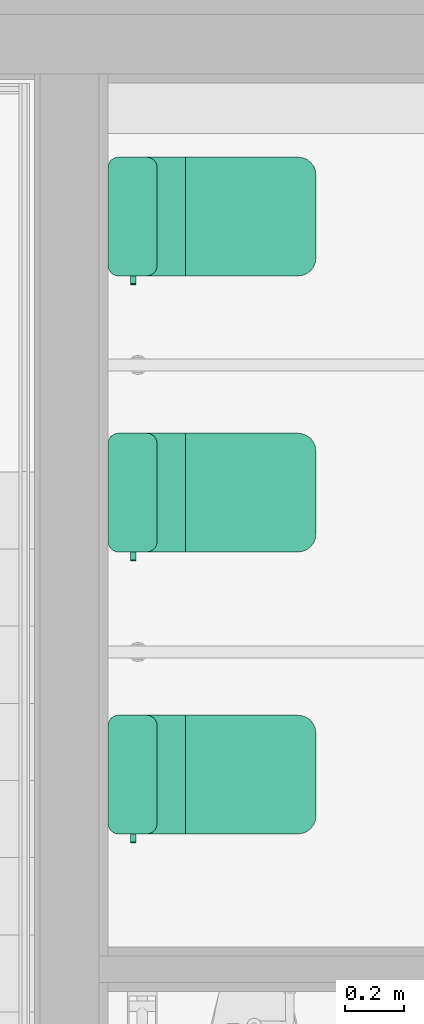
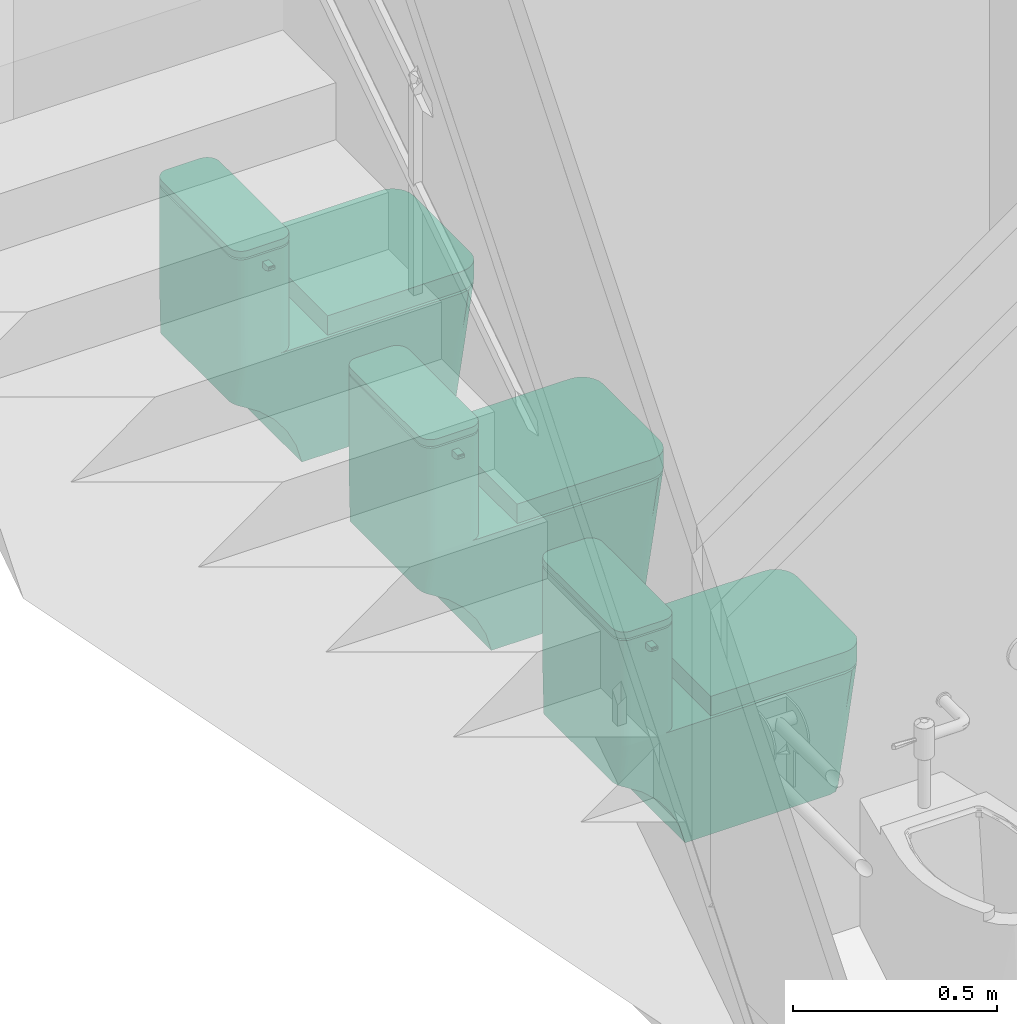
# One storey, part 69 of 76: 3 flow terminals.
"""IFC2X3 building model written with IfcOpenShell, lengths in millimetres."""

import ifcopenshell
import ifcopenshell.guid

model = None  # the IFC model being written
_history = None  # IfcOwnerHistory: only IFC2X3 demands one
_inside = {}  # id of a spatial element -> (the spatial element, [elements in it])
_under = {}  # id of a project, library or spatial element -> (it, [spatial elements below it])
_declared = {}  # id of a project -> (the project, [libraries it declares])
_typed = {}  # id of a type object -> (the type object, [elements of that type])
_made_of = {}  # id of a material, layer set ... -> (it, [elements and type objects made of it])


def new_model(schema):
    """Start an empty IFC model of exactly this schema.

    Asked for "IFC4X3", IfcOpenShell would pick the latest addendum, in which some entities
    have other attributes; the version numbers below select the first issue.
    IFC2X3 requires an IfcOwnerHistory on every rooted entity: one is made here for all.
    """
    global model, _history
    if schema == "IFC4X3":
        model = ifcopenshell.file(schema_version=(4, 3, 0, 0))
    else:
        model = ifcopenshell.file(schema=schema)
    _inside.clear()
    _under.clear()
    _declared.clear()
    _typed.clear()
    _made_of.clear()
    _history = None
    if model.schema == "IFC2X3":
        org = make("IfcOrganization", Name="unknown")
        user = make(
            "IfcPersonAndOrganization",
            ThePerson=make("IfcPerson", FamilyName="unknown"),
            TheOrganization=org,
        )
        app = make(
            "IfcApplication",
            ApplicationDeveloper=org,
            Version="unknown",
            ApplicationFullName="unknown",
            ApplicationIdentifier="unknown",
        )
        _history = make(
            "IfcOwnerHistory",
            OwningUser=user,
            OwningApplication=app,
            ChangeAction="ADDED",
            CreationDate=0,
        )
    return model


def make(cls, **values):
    """One entity of the class cls with the attributes given. An attribute that is None is left unset."""
    return model.create_entity(
        cls, **{name: value for name, value in values.items() if value is not None}
    )


def entity(cls, *values):
    """Any entity or typed value of the class cls, its attributes in the order of the schema. None: left unset."""
    e = model.create_entity(cls)
    for i, value in enumerate(values):
        if value is not None:
            e[i] = value
    return e


def rooted(cls, **values):
    """An entity with a GlobalId (a new one), such as an element, a storey or a relation."""
    return make(cls, GlobalId=ifcopenshell.guid.new(), OwnerHistory=_history, **values)


def si_unit(unit_type, name, prefix=None):
    """IfcSIUnit, for example si_unit("LENGTHUNIT", "METRE", prefix="MILLI")."""
    return make("IfcSIUnit", UnitType=unit_type, Prefix=prefix, Name=name)


def converted_unit(unit_type, name, factor, base, dimensions=None, offset=None):
    """IfcConversionBasedUnit, such as the inch: factor (a typed value) times the base unit."""
    return make(
        "IfcConversionBasedUnit"
        if offset is None
        else "IfcConversionBasedUnitWithOffset",
        ConversionOffset=offset,
        Dimensions=None
        if dimensions is None
        else entity("IfcDimensionalExponents", *dimensions),
        UnitType=unit_type,
        Name=name,
        ConversionFactor=make(
            "IfcMeasureWithUnit", ValueComponent=factor, UnitComponent=base
        ),
    )


def derived_unit(unit_type, elements):
    """IfcDerivedUnit: a product of units, each with its exponent."""
    return make(
        "IfcDerivedUnit",
        Elements=[
            make("IfcDerivedUnitElement", Unit=unit, Exponent=power)
            for unit, power in elements
        ],
        UnitType=unit_type,
    )


def assignment(units):
    """IfcUnitAssignment: the units of a project."""
    return None if units is None else make("IfcUnitAssignment", Units=units)


def point(xyz):
    """IfcCartesianPoint."""
    return None if xyz is None else make("IfcCartesianPoint", Coordinates=xyz)


def direction(xyz):
    """IfcDirection."""
    return None if xyz is None else make("IfcDirection", DirectionRatios=xyz)


def frame(location, z_axis=None, x_axis=None):
    """IfcAxis2Placement3D, a coordinate frame: its origin and axes. An axis left out is left unset."""
    return make(
        "IfcAxis2Placement3D",
        Location=point(location),
        Axis=direction(z_axis),
        RefDirection=direction(x_axis),
    )


def origin():
    """The frame at (0, 0, 0) with its axes left unset."""
    return frame((0.0, 0.0, 0.0))


def place(relative_to, where):
    """IfcLocalPlacement: puts the frame where relative to a parent placement (None: the world)."""
    return make(
        "IfcLocalPlacement", PlacementRelTo=relative_to, RelativePlacement=where
    )


def context(
    kind, dimensions, precision=None, world=None, true_north=None, identifier=None
):
    """IfcGeometricRepresentationContext, for example the 3D "Model" context."""
    return make(
        "IfcGeometricRepresentationContext",
        ContextIdentifier=identifier,
        ContextType=kind,
        CoordinateSpaceDimension=dimensions,
        Precision=precision,
        WorldCoordinateSystem=world,
        TrueNorth=true_north,
    )


def subcontext(parent, identifier, kind, view, scale=None):
    """IfcGeometricRepresentationSubContext, for example "Body" below "Model"."""
    return make(
        "IfcGeometricRepresentationSubContext",
        ContextIdentifier=identifier,
        ContextType=kind,
        ParentContext=parent,
        TargetScale=scale,
        TargetView=view,
    )


def project(units=None, contexts=None):
    """IfcProject with its units and contexts."""
    return rooted(
        "IfcProject",
        Name="project",
        RepresentationContexts=contexts,
        UnitsInContext=assignment(units),
    )


def spatial(cls, under=None, at=None, **own):
    """A site, building, storey or space (cls), placed at a placement, below another one or the project."""
    s = rooted(cls, ObjectPlacement=at, **own)
    if under is not None:
        _under.setdefault(under.id(), (under, []))[1].append(s)
    return s


def faces_of(points, faces, orient=None, outer=None):
    """IfcFace entities. A face is a list of loops; a loop is a list of indices into points, from 0.

    orient and outer hold one flag for each loop. By default every Orientation is true, the
    first loop of a face is its IfcFaceOuterBound and the others are IfcFaceBound.
    """
    made = []
    for i, loops in enumerate(faces):
        bounds = []
        for j, loop in enumerate(loops):
            is_outer = j == 0 if outer is None else outer[i][j]
            bounds.append(
                make(
                    "IfcFaceOuterBound" if is_outer else "IfcFaceBound",
                    Bound=make("IfcPolyLoop", Polygon=[points[k] for k in loop]),
                    Orientation=True if orient is None else orient[i][j],
                )
            )
        made.append(make("IfcFace", Bounds=bounds))
    return made


def faceted_brep(points, faces, orient=None, outer=None, voids=None):
    """IfcFacetedBrep: a solid bounded by flat faces; with voids (closed shells), ...WithVoids."""
    shared = [point(p) for p in points]
    hull = make("IfcClosedShell", CfsFaces=faces_of(shared, faces, orient, outer))
    if voids is None:
        return make("IfcFacetedBrep", Outer=hull)
    return make(
        "IfcFacetedBrepWithVoids",
        Outer=hull,
        Voids=[
            make(cls, CfsFaces=faces_of(shared, fs, o, b)) for cls, fs, o, b in voids
        ],
    )


def shape(context_of_items, identifier, shape_type, items):
    """IfcShapeRepresentation: the items that make up one representation, for example the "Body"."""
    return make(
        "IfcShapeRepresentation",
        ContextOfItems=context_of_items,
        RepresentationIdentifier=identifier,
        RepresentationType=shape_type,
        Items=items,
    )


def source(mapping_origin, context_of_items, identifier, shape_type, items):
    """IfcRepresentationMap: a shape defined once, which mapped items show again and again."""
    return make(
        "IfcRepresentationMap",
        MappingOrigin=mapping_origin,
        MappedRepresentation=shape(context_of_items, identifier, shape_type, items),
    )


def transform(
    local_origin,
    x_axis=None,
    y_axis=None,
    z_axis=None,
    scale=None,
    scale2=None,
    scale3=None,
    uniform=True,
):
    """IfcCartesianTransformationOperator3D, or its non-uniform kind. x_axis, y_axis, z_axis: its Axis1, 2, 3."""
    if uniform:
        return make(
            "IfcCartesianTransformationOperator3D",
            Axis1=direction(x_axis),
            Axis2=direction(y_axis),
            LocalOrigin=point(local_origin),
            Scale=scale,
            Axis3=direction(z_axis),
        )
    return make(
        "IfcCartesianTransformationOperator3DnonUniform",
        Axis1=direction(x_axis),
        Axis2=direction(y_axis),
        LocalOrigin=point(local_origin),
        Scale=scale,
        Axis3=direction(z_axis),
        Scale2=scale2,
        Scale3=scale3,
    )


def mapped(mapping_source, mapping_target):
    """IfcMappedItem: shows the shape of a source again, moved by a transform."""
    return make(
        "IfcMappedItem", MappingSource=mapping_source, MappingTarget=mapping_target
    )


def material(Name=None, Category=None):
    """IfcMaterial."""
    return make("IfcMaterial", Name=Name, Category=Category)


def material_list(materials):
    """IfcMaterialList."""
    return make("IfcMaterialList", Materials=materials)


def made_of(thing, what):
    """Note that an element or type object is made of a material, layer set ...; save() writes the relation."""
    if what is not None:
        _made_of.setdefault(what.id(), (what, []))[1].append(thing)
    return thing


def type_object(cls, material=None, **own):
    """A type object (cls), such as IfcWallType, which elements share."""
    return made_of(rooted(cls, **own), material)


def type_shapes(of_type, sources):
    """Give a type object the sources (RepresentationMaps) that its elements show as mapped items."""
    of_type.RepresentationMaps = sources


def element(
    cls,
    number,
    at=None,
    inside=None,
    cuts=None,
    type_object=None,
    material=None,
    context=None,
    identifier="Body",
    shape_type=None,
    held_by="IfcProductDefinitionShape",
    body=None,
    shapes=None,
    **own,
):
    """One element of the class cls, such as IfcWall. Its Tag is "e" and its number.

    at: its placement. inside: the storey or other place that contains it. cuts: it is an
    opening in that element (IfcRelVoidsElement). A single representation is given by context,
    identifier, shape_type and body (its items); several are given by shapes. held_by: the class
    of the entity that holds the representations. save() writes the other relations.
    """
    e = rooted(cls, Tag="e%d" % number, ObjectPlacement=at, **own)
    if body is not None:
        shapes = [shape(context, identifier, shape_type, body)]
    if shapes is not None:
        e.Representation = make(held_by, Representations=shapes)
    if inside is not None:
        _inside.setdefault(inside.id(), (inside, []))[1].append(e)
    if cuts is not None:
        rooted(
            "IfcRelVoidsElement", RelatingBuildingElement=cuts, RelatedOpeningElement=e
        )
    if type_object is not None:
        _typed.setdefault(type_object.id(), (type_object, []))[1].append(e)
    return made_of(e, material)


def aggregate(whole, parts):
    """IfcRelAggregates: a whole, such as a stair, and the parts it consists of."""
    return rooted("IfcRelAggregates", RelatingObject=whole, RelatedObjects=parts)


def save(model, path):
    """Write the relations noted so far, then the file.

    IfcRelAggregates (storeys below a building ...), IfcRelContainedInSpatialStructure (elements
    in a storey), IfcRelDefinesByType, IfcRelAssociatesMaterial and IfcRelDeclares: one each for
    every whole, place, type object, material and project.
    """
    for whole, parts in _under.values():
        aggregate(whole, parts)
    for where, things in _inside.values():
        rooted(
            "IfcRelContainedInSpatialStructure",
            RelatedElements=things,
            RelatingStructure=where,
        )
    for kind, things in _typed.values():
        rooted("IfcRelDefinesByType", RelatedObjects=things, RelatingType=kind)
    for what, things in _made_of.values():
        rooted("IfcRelAssociatesMaterial", RelatedObjects=things, RelatingMaterial=what)
    for by, libraries in _declared.values():
        rooted("IfcRelDeclares", RelatingContext=by, RelatedDefinitions=libraries)
    model.write(path)


model = new_model("IFC2X3")

# Units and contexts
model_context = context("Model", 3, precision=0.01, world=origin(), true_north=direction((6.123031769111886e-17, 1.0)))
body_context = subcontext(model_context, "Body", "Model", "MODEL_VIEW")
ifc_project = project(units=[si_unit("LENGTHUNIT", "METRE", prefix="MILLI"), si_unit("AREAUNIT", "SQUARE_METRE"), si_unit("VOLUMEUNIT", "CUBIC_METRE"), converted_unit("PLANEANGLEUNIT", "DEGREE", entity("IfcRatioMeasure", 0.017453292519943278), si_unit("PLANEANGLEUNIT", "RADIAN"), dimensions=[0, 0, 0, 0, 0, 0, 0]), si_unit("MASSUNIT", "GRAM", prefix="KILO"), derived_unit("MASSDENSITYUNIT", [(si_unit("MASSUNIT", "GRAM", prefix="KILO"), 1), (si_unit("LENGTHUNIT", "METRE"), -3)]), derived_unit("MOMENTOFINERTIAUNIT", [(si_unit("LENGTHUNIT", "METRE"), 4)]), si_unit("TIMEUNIT", "SECOND"), si_unit("FREQUENCYUNIT", "HERTZ"), si_unit("THERMODYNAMICTEMPERATUREUNIT", "DEGREE_CELSIUS"), derived_unit("THERMALTRANSMITTANCEUNIT", [(si_unit("MASSUNIT", "GRAM", prefix="KILO"), 1), (si_unit("THERMODYNAMICTEMPERATUREUNIT", "KELVIN"), -1), (si_unit("TIMEUNIT", "SECOND"), -3)]), derived_unit("VOLUMETRICFLOWRATEUNIT", [(si_unit("LENGTHUNIT", "METRE"), 3), (si_unit("TIMEUNIT", "SECOND"), -1)]), derived_unit("MASSFLOWRATEUNIT", [(si_unit("MASSUNIT", "GRAM", prefix="KILO"), 1), (si_unit("TIMEUNIT", "SECOND"), -1)]), derived_unit("ROTATIONALFREQUENCYUNIT", [(si_unit("TIMEUNIT", "SECOND"), -1)]), si_unit("ELECTRICCURRENTUNIT", "AMPERE"), si_unit("ELECTRICVOLTAGEUNIT", "VOLT"), si_unit("POWERUNIT", "WATT"), si_unit("FORCEUNIT", "NEWTON", prefix="KILO"), si_unit("ILLUMINANCEUNIT", "LUX"), si_unit("LUMINOUSFLUXUNIT", "LUMEN"), si_unit("LUMINOUSINTENSITYUNIT", "CANDELA"), derived_unit("USERDEFINED", [(si_unit("MASSUNIT", "GRAM", prefix="KILO"), -1), (si_unit("LENGTHUNIT", "METRE"), -2), (si_unit("TIMEUNIT", "SECOND"), 3), (si_unit("LUMINOUSFLUXUNIT", "LUMEN"), 1)]), derived_unit("SOUNDPOWERUNIT", [(si_unit("MASSUNIT", "GRAM", prefix="KILO"), 1), (si_unit("LENGTHUNIT", "METRE"), 2), (si_unit("TIMEUNIT", "SECOND"), -3)]), derived_unit("SOUNDPRESSUREUNIT", [(si_unit("MASSUNIT", "GRAM", prefix="KILO"), 1), (si_unit("LENGTHUNIT", "METRE"), -1), (si_unit("TIMEUNIT", "SECOND"), -2)]), derived_unit("LINEARVELOCITYUNIT", [(si_unit("LENGTHUNIT", "METRE"), 1), (si_unit("TIMEUNIT", "SECOND"), -1)]), si_unit("PRESSUREUNIT", "PASCAL"), derived_unit("USERDEFINED", [(si_unit("LENGTHUNIT", "METRE"), -2), (si_unit("MASSUNIT", "GRAM", prefix="KILO"), 1), (si_unit("TIMEUNIT", "SECOND"), -2)]), derived_unit("LINEARFORCEUNIT", [(si_unit("MASSUNIT", "GRAM", prefix="KILO"), 1), (si_unit("LENGTHUNIT", "METRE"), 1), (si_unit("TIMEUNIT", "SECOND"), -2), (si_unit("LENGTHUNIT", "METRE"), -1)]), derived_unit("PLANARFORCEUNIT", [(si_unit("MASSUNIT", "GRAM", prefix="KILO"), 1), (si_unit("LENGTHUNIT", "METRE"), 1), (si_unit("TIMEUNIT", "SECOND"), -2), (si_unit("LENGTHUNIT", "METRE"), -2)])], contexts=[model_context])

# Site, building, storey, space
site_placement = place(None, frame((-14167.972527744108, -657.2125860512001, 0.0)))
site = spatial("IfcSite", under=ifc_project, at=site_placement, Name="Default", CompositionType="ELEMENT")
building_placement = place(site_placement, origin())
building = spatial("IfcBuilding", under=site, at=building_placement, Name="Sample Building", CompositionType="ELEMENT")
storey_placement = place(building_placement, frame((0.0, 0.0, 9300.0)))
storey = spatial("IfcBuildingStorey", under=building, at=storey_placement, Name="지상 3층", CompositionType="ELEMENT", Elevation=9300.000000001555)
space_placement = place(storey_placement, origin())
space = spatial("IfcSpace", under=storey, at=space_placement, Name="202", CompositionType="ELEMENT", InteriorOrExteriorSpace="INTERNAL")

# Flow terminals
ifc_material_1 = material(Name="KBIMS-스테인리스 스틸_도금")
ifc_material_2 = material(Name="KBIMS-도기")
ifc_material_list_1 = material_list([ifc_material_1, ifc_material_2])
ifc_material_list_2 = material_list([ifc_material_1, ifc_material_2, ifc_material_2])
distribution_element_type = type_object("IfcDistributionElementType", Name="PF127-서양식 탱크일체형:PF127-서양식 탱크일체형", material=ifc_material_list_2)
shared_shape = source(origin(), body_context, "Body", "Brep", [
    faceted_brep([(-200.0, -93.78427766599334, 671.547634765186), (-226.3198216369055, -93.78427766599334, 671.5476347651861), (-228.9221007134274, -93.78427766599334, 670.469735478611), (-230.0, -93.78427766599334, 667.8674564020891), (-230.0, -93.78427766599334, 663.5153317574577), (-229.51628854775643, -93.78427766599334, 661.8557929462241), (-228.21666089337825, -93.78427766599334, 660.71605008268), (-215.9758797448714, -93.78427766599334, 655.0080800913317), (-211.766557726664, -93.78427766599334, 653.5792078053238), (-207.34774888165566, -93.78427766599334, 653.095269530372), (-200.0, -93.78427766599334, 653.095269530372), (-230.0, -75.66503821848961, 663.5153317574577), (-230.0, -75.66503821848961, 667.8674564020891), (-228.9221007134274, -75.66503821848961, 670.469735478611), (-226.31982163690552, -75.66503821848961, 671.5476347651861), (-200.0, -75.66503821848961, 671.547634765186), (-200.0, -75.66503821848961, 653.095269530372), (-207.34774888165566, -75.66503821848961, 653.095269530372), (-211.766557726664, -75.66503821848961, 653.5792078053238), (-215.97587974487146, -75.66503821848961, 655.0080800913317), (-228.21666089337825, -75.66503821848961, 660.71605008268), (-229.51628854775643, -75.66503821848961, 661.8557929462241)], [[[0, 1, 2, 3, 4, 5, 6, 7, 8, 9, 10]], [[11, 12, 13, 14, 15, 16, 17, 18, 19, 20, 21]], [[1, 14, 13, 2]], [[13, 12, 3, 2]], [[4, 3, 12, 11]], [[4, 11, 21, 5]], [[21, 20, 6, 5]], [[7, 6, 20, 19]], [[7, 19, 18, 8]], [[18, 17, 9, 8]], [[10, 9, 17, 16]], [[0, 10, 16, 15]], [[1, 0, 15, 14]]]),
    faceted_brep([(140.0, -700.0, 445.0), (155.52914270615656, -697.9555495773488, 445.0), (170.0, -691.9615242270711, 445.0), (182.42640687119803, -682.4264068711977, 445.0), (191.96152422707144, -670.0, 445.0), (197.9555495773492, -655.5291427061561, 445.0), (200.0, -640.0, 445.0), (200.0, -260.0, 445.0), (-200.0, -260.0, 445.0), (-200.0, -640.0, 445.0), (-197.95554957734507, -655.5291427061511, 445.0), (-191.96152422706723, -670.0, 445.0), (-182.42640687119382, -682.4264068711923, 445.0), (-170.0, -691.9615242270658, 445.0), (-155.52914270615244, -697.9555495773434, 445.0), (-140.0, -700.0, 445.0), (-200.0, -640.0, 386.96747142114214), (-200.0, -260.0, 386.96747142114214), (200.0, -260.0, 386.96747142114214), (200.0, -640.0, 386.96747142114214), (197.9555495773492, -655.5291427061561, 386.96747142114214), (191.96152422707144, -670.0, 386.96747142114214), (182.42640687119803, -682.4264068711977, 386.96747142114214), (170.0, -691.9615242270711, 386.96747142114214), (155.52914270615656, -697.9555495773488, 386.96747142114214), (140.0, -700.0, 386.96747142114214), (-140.0, -700.0, 386.96747142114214), (-155.52914270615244, -697.9555495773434, 386.96747142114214), (-170.0, -691.9615242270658, 386.96747142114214), (-182.42640687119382, -682.4264068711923, 386.96747142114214), (-191.96152422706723, -670.0, 386.96747142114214), (-197.95554957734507, -655.5291427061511, 386.96747142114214)], [[[0, 1, 2, 3, 4, 5, 6, 7, 8, 9, 10, 11, 12, 13, 14, 15]], [[16, 17, 18, 19, 20, 21, 22, 23, 24, 25, 26, 27, 28, 29, 30, 31]], [[1, 24, 23, 2]], [[2, 23, 22, 3]], [[25, 24, 1, 0]], [[4, 21, 20, 5]], [[5, 20, 19, 6]], [[3, 22, 21, 4]], [[7, 6, 19, 18]], [[8, 7, 18, 17]], [[9, 8, 17, 16]], [[10, 31, 30, 11]], [[11, 30, 29, 12]], [[9, 16, 31, 10]], [[13, 28, 27, 14]], [[14, 27, 26, 15]], [[12, 29, 28, 13]], [[0, 15, 26, 25]]]),
    faceted_brep([(165.0, 0.0, 694.4321747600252), (165.0, 0.0, 380.0), (164.13685378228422, 0.0, 314.40088745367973), (163.42105263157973, 0.0, 260.0), (-163.42105263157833, 0.0, 260.0), (-164.1368541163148, 0.0, 314.40091283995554), (-165.0, 0.0, 380.0), (-165.0, 0.0, 694.4321747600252), (-165.0, 0.0, 720.0), (165.0, 0.0, 720.0), (165.0, 0.0, 699.4321747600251), (-165.0, 0.0, 699.4321747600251), (200.0, -35.0, 694.4321747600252), (200.0, -130.0, 694.4321747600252), (200.0, -130.0, 380.0), (200.0, -35.0, 380.0), (200.0, -35.0, 720.0), (200.0, -130.0, 720.0), (200.0, -130.0, 699.4321747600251), (200.0, -35.0, 699.4321747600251), (-198.80740392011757, -139.05866657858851, 694.4321747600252), (-198.80740392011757, -139.0586665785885, 380.0), (-195.31088913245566, -147.5000000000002, 380.0), (-195.31088913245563, -147.50000000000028, 694.4321747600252), (-198.80740392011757, -139.05866657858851, 699.4321747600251), (-195.31088913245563, -147.50000000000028, 699.4321747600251), (-195.3108891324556, -147.50000000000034, 720.0), (-198.80740392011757, -139.05866657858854, 720.0), (-189.74873734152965, -154.74873734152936, 380.0), (-189.74873734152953, -154.74873734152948, 694.4321747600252), (-189.74873734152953, -154.74873734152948, 699.4321747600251), (-189.74873734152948, -154.74873734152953, 720.0), (-200.0, -130.0, 380.0), (-200.0, -130.0, 694.4321747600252), (-200.0, -130.0, 699.4321747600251), (-200.0, -130.0, 720.0), (-182.5000000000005, -160.31088913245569, 694.4321747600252), (-182.50000000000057, -160.31088913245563, 380.0), (-174.05866657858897, -163.80740392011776, 380.0), (-174.05866657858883, -163.8074039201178, 694.4321747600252), (-174.05866657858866, -163.80740392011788, 720.0), (-182.50000000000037, -160.31088913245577, 720.0), (-182.5000000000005, -160.31088913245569, 699.4321747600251), (-174.05866657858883, -163.8074039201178, 699.4321747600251), (-165.0, -165.0, 380.0), (-165.0, -165.0, 694.4321747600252), (-165.0, -165.0, 720.0), (-165.0, -165.0, 699.4321747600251), (165.0, -165.0, 694.4321747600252), (165.0, -165.0, 380.0), (165.0, -165.0, 720.0), (165.0, -165.0, 699.4321747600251), (-200.0, -35.0, 694.4321747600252), (-200.0, -35.0, 380.0), (-200.0, -35.0, 720.0), (-200.0, -35.0, 699.4321747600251), (198.80740392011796, -25.941333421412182, 699.4321747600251), (195.310889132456, -17.500000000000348, 699.4321747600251), (195.31088913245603, -17.500000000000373, 720.0), (198.80740392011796, -25.94133342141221, 720.0), (189.74873734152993, -10.251262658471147, 720.0), (189.74873734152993, -10.251262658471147, 699.4321747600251), (174.05866657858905, -1.1925960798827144, 699.4321747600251), (174.0586665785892, -1.192596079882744, 720.0), (182.50000000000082, -4.68911086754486, 699.4321747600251), (182.50000000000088, -4.68911086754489, 720.0), (174.05866657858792, -163.80740392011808, 694.4321747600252), (174.05866657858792, -163.80740392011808, 380.0), (182.49999999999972, -160.31088913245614, 380.0), (182.49999999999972, -160.31088913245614, 694.4321747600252), (174.05866657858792, -163.80740392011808, 699.4321747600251), (182.49999999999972, -160.31088913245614, 699.4321747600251), (182.5000000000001, -160.31088913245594, 720.0), (174.0586665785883, -163.80740392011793, 720.0), (189.74873734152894, -154.74873734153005, 380.0), (189.74873734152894, -154.74873734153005, 694.4321747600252), (189.74873734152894, -154.74873734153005, 699.4321747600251), (189.74873734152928, -154.74873734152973, 720.0), (195.31088913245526, -147.50000000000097, 694.4321747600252), (195.31088913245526, -147.50000000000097, 380.0), (198.8074039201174, -139.05866657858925, 380.0), (198.8074039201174, -139.05866657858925, 694.4321747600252), (195.31088913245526, -147.50000000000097, 699.4321747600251), (198.8074039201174, -139.05866657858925, 699.4321747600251), (198.80740392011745, -139.0586665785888, 720.0), (195.3108891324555, -147.50000000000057, 720.0), (-174.0586665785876, -1.1925960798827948, 720.0), (-174.0586665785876, -1.1925960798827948, 699.4321747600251), (-182.49999999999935, -4.689110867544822, 720.0), (-182.49999999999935, -4.689110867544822, 699.4321747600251), (-189.7487373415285, -10.251262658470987, 720.0), (-189.7487373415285, -10.251262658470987, 699.4321747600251), (-198.8074039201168, -25.941333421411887, 720.0), (-195.31088913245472, -17.50000000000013, 720.0), (-195.31088913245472, -17.50000000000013, 699.4321747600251), (-198.8074039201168, -25.941333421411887, 699.4321747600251), (-174.0586665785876, -1.192596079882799, 694.4321747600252), (-171.07672145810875, -0.5315585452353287, 380.0), (-176.96898132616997, -2.1101309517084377, 380.0), (-182.49999999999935, -4.689110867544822, 694.4321747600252), (-182.49783433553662, -4.687860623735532, 380.0), (-187.49533036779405, -8.18656844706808, 380.0), (-189.7487373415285, -10.251262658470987, 694.4321747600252), (-195.31088913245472, -17.50000000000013, 694.4321747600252), (-195.3094689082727, -17.4975403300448, 380.0), (-197.88846700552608, -23.02716666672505, 380.0), (-198.8074039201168, -25.941333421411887, 694.4321747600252), (-199.4680424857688, -28.921015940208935, 380.0), (-191.8095995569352, -12.500102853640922, 380.0), (198.80740392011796, -25.941333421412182, 694.4321747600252), (199.46810048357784, -28.92134479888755, 380.0), (197.88863680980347, -23.02763311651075, 380.0), (195.310889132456, -17.500000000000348, 694.4321747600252), (195.3097905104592, -17.498097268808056, 380.0), (191.81007551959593, -12.500669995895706, 380.0), (189.74873734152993, -10.251262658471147, 694.4321747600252), (182.50000000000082, -4.68911086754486, 694.4321747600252), (182.49858765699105, -4.6882954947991, 380.0), (176.9698186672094, -2.110435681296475, 380.0), (171.0775985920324, -0.5317131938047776, 380.0), (174.05866657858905, -1.1925960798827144, 694.4321747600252), (187.49595914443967, -8.187095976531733, 380.0), (160.0, -210.0, 0.0), (160.0, -620.0, 0.0), (156.6733983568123, -632.4150463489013, 0.0), (154.64101615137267, -640.0, 0.0), (147.3205080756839, -647.3205080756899, 0.0), (140.0, -654.6410161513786, 0.0), (132.41504577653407, -656.673398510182, 0.0), (120.0, -660.0, 0.0), (-120.0, -660.0, 0.0), (-132.4150463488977, -656.6733983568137, 0.0), (-140.0, -654.6410161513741, 0.0), (-147.32050807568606, -647.3205080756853, 0.0), (-154.64101615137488, -640.0, 0.0), (-156.67339851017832, -632.4150457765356, 0.0), (-160.0, -620.0, 0.0), (-160.0, -210.0, 0.0), (-200.0, -640.0, 380.0), (-197.71638597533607, -651.4805029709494, 380.0), (-195.43277195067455, -662.961005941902, 380.0), (-188.92958941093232, -672.6937064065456, 380.0), (-182.42640687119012, -682.4264068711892, 380.0), (-172.69370640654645, -688.9295894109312, 380.0), (-162.96100594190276, -695.4327719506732, 380.0), (-151.48050297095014, -697.7163859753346, 380.0), (-140.0, -700.0, 380.0), (140.0, -700.0, 380.0), (151.4805029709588, -697.7163859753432, 380.0), (162.9610059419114, -695.4327719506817, 380.0), (172.69370640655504, -688.9295894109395, 380.0), (182.42640687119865, -682.4264068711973, 380.0), (188.9295894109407, -672.6937064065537, 380.0), (195.4327719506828, -662.96100594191, 380.0), (197.7163859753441, -651.4805029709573, 380.0), (200.0, -640.0, 380.0), (181.88767422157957, -630.9438371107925, 207.93290510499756), (169.05616288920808, -624.5280814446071, 86.03354744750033), (166.41215116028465, -190.4623972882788, 60.91543602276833), (172.39104658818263, -161.03070825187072, 117.71494258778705), (177.76891724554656, -122.53079215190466, 168.80471383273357), (182.39485897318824, -76.04296457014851, 212.75116024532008), (186.13906689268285, -22.871683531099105, 248.32113548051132), (193.0948286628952, -28.957975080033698, 314.4008722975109), (184.4509041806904, -13.399793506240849, 253.3937042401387), (192.48236559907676, -21.712362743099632, 318.068486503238), (185.85897664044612, -18.078391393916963, 250.93098822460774), (169.4535256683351, -0.47508644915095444, 318.71364296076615), (176.81269594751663, -2.7853559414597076, 322.8232335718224), (184.85554366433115, -8.564241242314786, 317.5126549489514), (188.64536552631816, -13.805323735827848, 311.79954638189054), (181.93237214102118, -9.070973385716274, 255.5993773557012), (168.85282113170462, -0.6257823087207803, 259.7058617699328), (178.3784036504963, -5.339995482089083, 257.4452533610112), (173.94033185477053, -2.453774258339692, 258.83869964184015), (-193.09483031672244, -28.957976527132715, 314.4008880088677), (-192.48224700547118, -21.712007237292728, 318.06820833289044), (-185.85897664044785, -18.07839139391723, 250.93098822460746), (-169.4535400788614, -0.47508841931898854, 318.7138102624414), (-188.64533012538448, -13.805305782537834, 311.79916939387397), (-184.4509041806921, -13.399793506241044, 253.39370424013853), (-184.85525539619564, -8.563839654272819, 317.5148648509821), (-178.37840365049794, -5.3399954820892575, 257.44525336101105), (-181.93237214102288, -9.070973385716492, 255.59937735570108), (-186.13906689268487, -22.87168353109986, 248.32113548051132), (-176.81199260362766, -2.7850356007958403, 322.8227486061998), (-173.9403318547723, -2.4537742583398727, 258.8386996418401), (-168.85282113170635, -0.6257823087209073, 259.70586176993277), (-182.39485897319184, -76.04296457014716, 212.75116024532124), (-177.7689172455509, -122.53079215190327, 168.8047138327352), (-172.3910465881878, -161.03070825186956, 117.71494258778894), (-166.4121511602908, -190.46239728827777, 60.9154360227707), (-170.9438402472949, -625.4719201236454, 103.96648234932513), (-181.88767486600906, -630.9438374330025, 207.932911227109), (167.84723921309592, -644.8835703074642, 113.26853664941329), (182.70359618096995, -650.4613144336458, 244.34084888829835), (172.7916320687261, -658.8131569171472, 202.6373284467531), (163.28959461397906, -663.2895949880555, 167.00838556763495), (161.3612464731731, -651.454814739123, 94.73545488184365), (130.94384024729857, -681.8876804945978, 207.93296469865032), (137.1466297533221, -675.5797921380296, 155.949684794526), (142.81243148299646, -686.5857660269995, 259.99216222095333), (174.39327642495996, -671.2588406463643, 273.5041922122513), (151.45063444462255, -661.3663368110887, 94.74858838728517), (144.3377504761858, -669.7672265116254, 125.97246068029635), (152.4807217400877, -683.0768420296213, 253.0686677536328), (158.81315653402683, -672.7916326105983, 202.63733033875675), (125.47192012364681, -670.9438402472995, 103.96648234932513), (169.1268939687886, -634.5961485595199, 96.37357614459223), (-130.94383711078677, -681.8876742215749, 207.93290510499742), (-124.52808144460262, -669.056162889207, 86.03354744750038), (-144.88357030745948, -667.8472392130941, 113.26853664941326), (-150.46131443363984, -682.7035961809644, 244.34084888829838), (-158.8131569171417, -672.7916320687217, 202.6373284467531), (-163.28959498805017, -663.2895946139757, 167.00838556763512), (-151.4548147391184, -661.3612464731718, 94.73545488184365), (-175.57979213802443, -637.1466297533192, 155.94968479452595), (-186.58576602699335, -642.8124314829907, 259.99216222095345), (-171.25884064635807, -674.3932764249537, 273.50419221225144), (-161.36633681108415, -651.4506344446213, 94.74858838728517), (-169.76722651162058, -644.3377504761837, 125.97246068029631), (-172.79163261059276, -658.8131565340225, 202.63733033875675), (-134.5961485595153, -669.1268939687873, 96.37357614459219), (-183.07684202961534, -652.480721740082, 253.06866775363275), (-185.0, -150.0, 699.4321747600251), (-185.0, -15.0, 699.4321747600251), (-185.0, -15.0, 694.4321747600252), (-185.0, -150.0, 694.4321747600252), (185.0, -150.0, 699.4321747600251), (185.0, -150.0, 694.4321747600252), (185.0, -15.0, 699.4321747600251), (185.0, -15.0, 694.4321747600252)], [[[0, 1, 2, 3, 4, 5, 6, 7]], [[8, 9, 10, 11]], [[12, 13, 14, 15]], [[16, 17, 18, 19]], [[20, 21, 22, 23]], [[24, 25, 26, 27]], [[23, 22, 28, 29]], [[25, 30, 31, 26]], [[32, 21, 20, 33]], [[34, 24, 27, 35]], [[36, 37, 38, 39]], [[40, 41, 42, 43]], [[39, 38, 44, 45]], [[46, 40, 43, 47]], [[29, 28, 37, 36]], [[30, 42, 41, 31]], [[48, 45, 44, 49]], [[50, 46, 47, 51]], [[33, 52, 53, 32]], [[35, 54, 55, 34]], [[56, 57, 58, 59]], [[19, 56, 59, 16]], [[60, 58, 57, 61]], [[62, 10, 9, 63]], [[64, 62, 63, 65]], [[61, 64, 65, 60]], [[66, 67, 68, 69]], [[70, 71, 72, 73]], [[69, 68, 74, 75]], [[71, 76, 77, 72]], [[49, 67, 66, 48]], [[51, 70, 73, 50]], [[78, 79, 80, 81]], [[82, 83, 84, 85]], [[81, 80, 14, 13]], [[83, 18, 17, 84]], [[75, 74, 79, 78]], [[76, 82, 85, 77]], [[86, 8, 11, 87]], [[88, 86, 87, 89]], [[90, 88, 89, 91]], [[92, 93, 94, 95]], [[54, 92, 95, 55]], [[91, 94, 93, 90]], [[9, 8, 86, 88, 90, 93, 92, 54, 35, 27, 26, 31, 41, 40, 46, 50, 73, 72, 77, 85, 84, 17, 16, 59, 58, 60, 65, 63]], [[96, 97, 98]], [[99, 98, 100]], [[99, 100, 101]], [[6, 97, 7]], [[7, 97, 96]], [[98, 99, 96]], [[101, 102, 99]], [[103, 104, 105]], [[106, 105, 107]], [[52, 107, 53]], [[102, 108, 103]], [[108, 102, 101]], [[104, 103, 108]], [[105, 106, 103]], [[107, 52, 106]], [[109, 110, 111]], [[112, 111, 113]], [[112, 113, 114]], [[15, 110, 12]], [[12, 110, 109]], [[111, 112, 109]], [[114, 115, 112]], [[116, 117, 118]], [[118, 119, 120]], [[1, 0, 119]], [[115, 121, 116]], [[121, 115, 114]], [[117, 116, 121]], [[118, 120, 116]], [[119, 0, 120]], [[122, 123, 124, 125, 126, 127, 128, 129, 130, 131, 132, 133, 134, 135, 136, 137]], [[21, 32, 138, 139, 140, 141, 142, 143, 144, 145, 146, 147, 148, 149, 150, 151, 152, 153, 154, 155, 14, 80, 79, 74, 68, 67, 49, 44, 38, 37, 28, 22]], [[14, 155, 156, 157, 123, 122, 158, 159, 160, 161, 162, 163, 15]], [[164, 165, 166]], [[1, 119, 167]], [[118, 117, 168]], [[169, 170, 171]], [[121, 169, 168]], [[117, 121, 168]], [[2, 1, 167, 3]], [[170, 114, 113]], [[172, 167, 168]], [[110, 15, 163]], [[173, 174, 168]], [[171, 173, 169]], [[114, 169, 121]], [[111, 165, 170]], [[111, 110, 165]], [[3, 167, 172]], [[165, 163, 166]], [[168, 169, 173]], [[169, 114, 170]], [[172, 168, 174]], [[171, 170, 164]], [[164, 170, 165]], [[168, 167, 118]], [[166, 163, 162]], [[163, 165, 110]], [[167, 119, 118]], [[170, 113, 111]], [[175, 176, 177]], [[98, 97, 178]], [[176, 105, 179]], [[176, 179, 180]], [[108, 181, 179]], [[182, 183, 181]], [[175, 107, 176]], [[6, 5, 4, 178]], [[184, 175, 177]], [[176, 180, 177]], [[182, 185, 186]], [[179, 183, 180]], [[105, 104, 179]], [[101, 181, 108]], [[185, 100, 98]], [[185, 98, 178]], [[185, 178, 187]], [[97, 6, 178]], [[101, 100, 185]], [[181, 101, 185]], [[107, 105, 176]], [[185, 182, 181]], [[185, 187, 186]], [[175, 53, 107]], [[178, 4, 187]], [[181, 183, 179]], [[179, 104, 108]], [[138, 32, 53, 175, 184, 188, 189, 190, 191, 137, 136, 192, 193]], [[194, 195, 196]], [[197, 126, 198]], [[199, 200, 201]], [[156, 154, 195]], [[202, 152, 151]], [[196, 152, 202]], [[127, 203, 204]], [[194, 198, 125]], [[150, 205, 206]], [[203, 206, 204]], [[124, 194, 125]], [[198, 194, 196]], [[200, 199, 207]], [[123, 157, 156, 208]], [[194, 124, 208]], [[206, 197, 202]], [[194, 208, 195]], [[150, 202, 151]], [[156, 195, 208]], [[123, 208, 124]], [[126, 197, 203]], [[197, 198, 196]], [[126, 125, 198]], [[202, 197, 196]], [[197, 206, 203]], [[127, 204, 128]], [[126, 203, 127]], [[206, 205, 204]], [[202, 150, 206]], [[128, 204, 200]], [[195, 152, 196]], [[148, 205, 149]], [[152, 195, 153]], [[205, 148, 201]], [[128, 200, 207]], [[205, 201, 200]], [[129, 128, 207]], [[205, 200, 204]], [[147, 199, 201]], [[154, 156, 155]], [[154, 153, 195]], [[149, 205, 150]], [[148, 147, 201]], [[146, 209, 210, 130, 129, 207, 199, 147]], [[211, 212, 213]], [[214, 133, 215]], [[193, 216, 217]], [[209, 145, 212]], [[218, 143, 142]], [[213, 143, 218]], [[134, 219, 220]], [[211, 215, 132]], [[142, 141, 218]], [[219, 221, 220]], [[131, 211, 132]], [[215, 211, 213]], [[216, 193, 192]], [[130, 210, 209, 222]], [[211, 131, 222]], [[221, 214, 218]], [[211, 222, 212]], [[218, 141, 221]], [[209, 212, 222]], [[130, 222, 131]], [[133, 214, 219]], [[214, 215, 213]], [[133, 132, 215]], [[218, 214, 213]], [[214, 221, 219]], [[134, 220, 135]], [[133, 219, 134]], [[221, 223, 220]], [[141, 223, 221]], [[135, 220, 216]], [[212, 143, 213]], [[223, 141, 140]], [[143, 212, 144]], [[223, 139, 217]], [[135, 216, 192]], [[223, 217, 216]], [[136, 135, 192]], [[223, 216, 220]], [[138, 193, 217]], [[145, 209, 146]], [[145, 144, 212]], [[139, 223, 140]], [[139, 138, 217]], [[186, 187, 4]], [[182, 186, 4]], [[4, 180, 183]], [[182, 4, 183]], [[4, 3, 162, 184]], [[172, 174, 3]], [[173, 3, 174]], [[171, 3, 173]], [[164, 3, 171]], [[164, 166, 3]], [[162, 3, 166]], [[177, 180, 4]], [[184, 162, 161, 188]], [[190, 189, 160, 159]], [[160, 189, 188, 161]], [[191, 190, 159, 158]], [[191, 158, 122, 137]], [[177, 4, 184]], [[224, 225, 226, 227]], [[228, 224, 227, 229]], [[230, 228, 229, 231]], [[225, 230, 231, 226]], [[78, 81, 229]], [[229, 75, 78]], [[81, 13, 229]], [[231, 229, 13]], [[13, 12, 231]], [[12, 109, 231]], [[231, 109, 112]], [[112, 115, 231]], [[115, 116, 231]], [[120, 231, 116]], [[231, 120, 0]], [[231, 0, 226]], [[226, 0, 7]], [[226, 7, 96]], [[96, 99, 226]], [[102, 226, 99]], [[103, 226, 102]], [[226, 103, 106]], [[106, 52, 226]], [[33, 226, 52]], [[33, 227, 226]], [[20, 227, 33]], [[23, 227, 20]], [[29, 227, 23]], [[29, 36, 227]], [[39, 227, 36]], [[227, 39, 45]], [[48, 227, 45]], [[229, 48, 66]], [[48, 229, 227]], [[66, 69, 229]], [[75, 229, 69]], [[57, 56, 230]], [[230, 61, 57]], [[56, 19, 230]], [[228, 230, 19]], [[19, 18, 228]], [[18, 83, 228]], [[228, 83, 82]], [[82, 76, 228]], [[76, 71, 228]], [[70, 228, 71]], [[228, 70, 51]], [[224, 228, 51]], [[51, 47, 224]], [[224, 47, 43]], [[43, 42, 224]], [[30, 224, 42]], [[25, 224, 30]], [[224, 25, 24]], [[24, 34, 224]], [[55, 224, 34]], [[55, 225, 224]], [[95, 225, 55]], [[94, 225, 95]], [[91, 225, 94]], [[91, 89, 225]], [[87, 225, 89]], [[225, 87, 11]], [[10, 225, 11]], [[230, 10, 62]], [[230, 225, 10]], [[62, 64, 230]], [[61, 230, 64]]]),
])
type_shapes(distribution_element_type, [shared_shape])
flow_terminal_1_placement = place(space_placement, frame((33097.96375501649, 27477.212300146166, 0.0), z_axis=(0.0, 0.0, 1.0), x_axis=(0.0, 1.0, 0.0)))
element("IfcFlowTerminal", 1, at=flow_terminal_1_placement, inside=space, type_object=distribution_element_type, material=ifc_material_list_1, Name="PF127-서양식 탱크일체형:PF127-서양식 탱크일체형", ObjectType="PF127-서양식 탱크일체형:PF127-서양식 탱크일체형", context=body_context, shape_type="MappedRepresentation", body=[
    mapped(shared_shape, transform((0.0, 0.0, 0.0), scale=1.0)),
])
ifc_material_list_3 = material_list([ifc_material_1, ifc_material_2])
flow_terminal_2_placement = place(space_placement, frame((33097.96375501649, 26547.21230014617, 0.0), z_axis=(0.0, 0.0, 1.0), x_axis=(0.0, 1.0, 0.0)))
element("IfcFlowTerminal", 2, at=flow_terminal_2_placement, inside=space, type_object=distribution_element_type, material=ifc_material_list_3, Name="PF127-서양식 탱크일체형:PF127-서양식 탱크일체형", ObjectType="PF127-서양식 탱크일체형:PF127-서양식 탱크일체형", context=body_context, shape_type="MappedRepresentation", body=[
    mapped(shared_shape, transform((0.0, 0.0, 0.0), scale=1.0)),
])
ifc_material_list_4 = material_list([ifc_material_1, ifc_material_2])
flow_terminal_3_placement = place(space_placement, frame((33097.96366479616, 25597.212300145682, 0.0), z_axis=(0.0, 0.0, 1.0), x_axis=(0.0, 1.0, 0.0)))
element("IfcFlowTerminal", 3, at=flow_terminal_3_placement, inside=space, type_object=distribution_element_type, material=ifc_material_list_4, Name="PF127-서양식 탱크일체형:PF127-서양식 탱크일체형", ObjectType="PF127-서양식 탱크일체형:PF127-서양식 탱크일체형", context=body_context, shape_type="MappedRepresentation", body=[
    mapped(shared_shape, transform((0.0, 0.0, 0.0), scale=1.0)),
])

save(model, "model.ifc")
